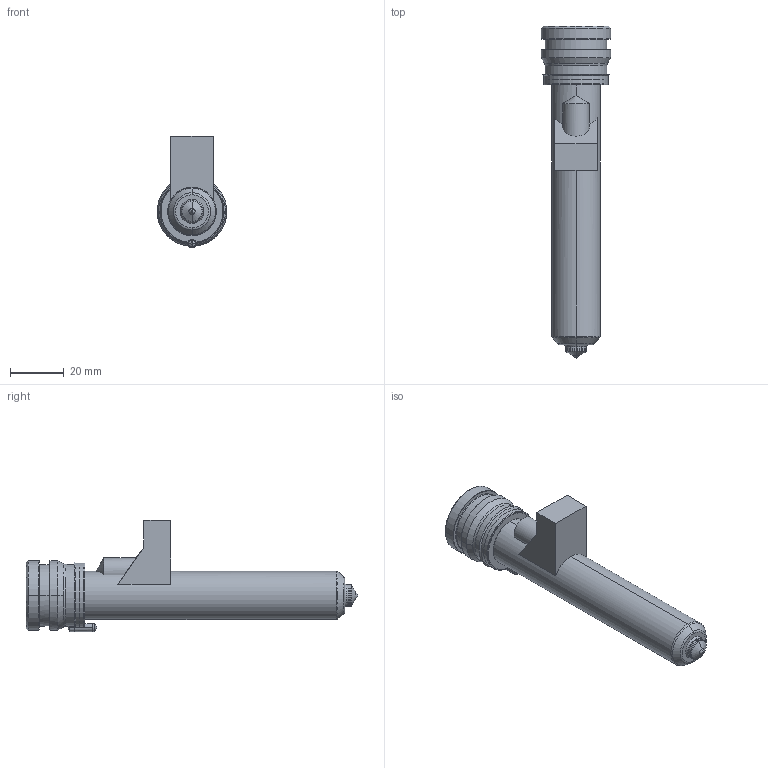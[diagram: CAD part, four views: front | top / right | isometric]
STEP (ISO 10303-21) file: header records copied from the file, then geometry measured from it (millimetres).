
FILE_DESCRIPTION((''),'2;1');
FILE_NAME('MPN-08-24-TS8-106-M','2026-02-05T13:24:34',('UPTIO'),('Thermoplay S.p.A.'),'CREO PARAMETRIC BY PTC INC, 2023494','CREO PARAMETRIC BY PTC INC, 2023494','');
FILE_SCHEMA(('CONFIG_CONTROL_DESIGN','SHAPE_APPEARANCE_LAYERS_GROUPS'));
Length unit declared in the file: millimetre
Products named in the file (1): MPN-08-24-TS8-106-M
Bounding box: 26 x 124 x 41.5 mm (x, y, z)
Volume: 24547.9 mm3; surface area: 32107.7 mm2
Topology: 2 solids, 5 shells, 532 faces, 1371 edges, 843 vertices
Faces by surface type: cylinder 172, plane 146, bspline 77, torus 62, cone 58, sphere 11, extrusion 6
Entity records: 27799 total; most frequent: CARTESIAN_POINT 12160, ORIENTED_EDGE 2720, DIRECTION 2456, EDGE_CURVE 1360, AXIS2_PLACEMENT_3D 960, VERTEX_POINT 843, EDGE_LOOP 561, VECTOR 536
